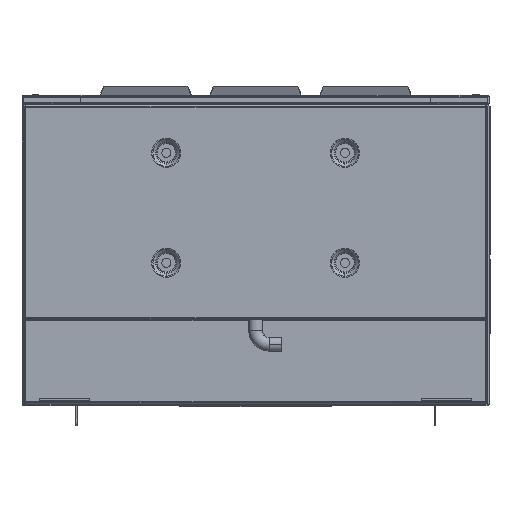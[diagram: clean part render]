
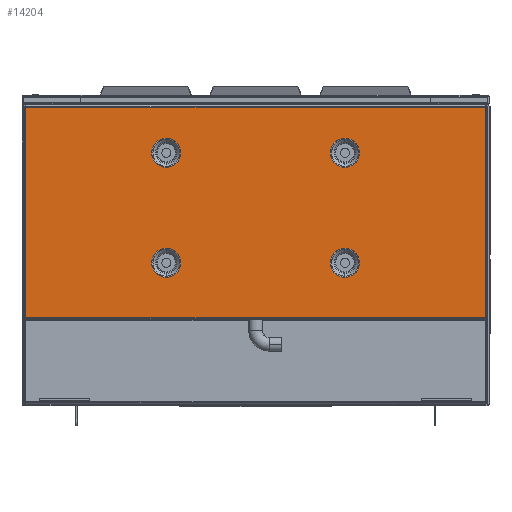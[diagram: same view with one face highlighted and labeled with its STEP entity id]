
A CAD part, front view. The second image highlights one B-rep face of the part: STEP entity #14204.
In plain terms, the highlighted planar face has unit normal (0, -1, 0).
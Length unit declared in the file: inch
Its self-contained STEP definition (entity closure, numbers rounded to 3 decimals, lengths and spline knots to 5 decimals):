
#1250 = VERTEX_POINT ( 'NONE', #25724 ) ;
#1706 = ORIENTED_EDGE ( 'NONE', *, *, #51820, .T. ) ;
#2119 = LINE ( 'NONE', #13474, #36731 ) ;
#2383 = AXIS2_PLACEMENT_3D ( 'NONE', #19619, #67813, #26577 ) ;
#2592 = EDGE_CURVE ( 'NONE', #13549, #28653, #2119, .T. ) ;
#4679 = VERTEX_POINT ( 'NONE', #51894 ) ;
#4862 = EDGE_CURVE ( 'NONE', #73409, #17080, #19112, .T. ) ;
#7658 = DIRECTION ( 'NONE',  ( 0., -1., 0. ) ) ;
#7935 = EDGE_CURVE ( 'NONE', #37511, #17565, #10393, .T. ) ;
#8520 = CARTESIAN_POINT ( 'NONE',  ( -3.25, -0.055, -1.30615 ) ) ;
#9176 = VERTEX_POINT ( 'NONE', #57182 ) ;
#9247 = CARTESIAN_POINT ( 'NONE',  ( -3.25, -0.055, 1.63615 ) ) ;
#10393 = CIRCLE ( 'NONE', #60249, 0.52885 ) ;
#10820 = ORIENTED_EDGE ( 'NONE', *, *, #7935, .T. ) ;
#12880 = DIRECTION ( 'NONE',  ( 0., 0., -1. ) ) ;
#13206 = CARTESIAN_POINT ( 'NONE',  ( -3.25, -0.055, -1.835 ) ) ;
#13474 = CARTESIAN_POINT ( 'NONE',  ( -8.364, -0.055, 3.85929 ) ) ;
#13549 = VERTEX_POINT ( 'NONE', #33768 ) ;
#14204 = ADVANCED_FACE ( 'NONE', ( #82695, #64449, #46105, #27792, #66573 ), #49042, .T. ) ;
#14430 = LINE ( 'NONE', #47268, #30653 ) ;
#14649 = CARTESIAN_POINT ( 'NONE',  ( -8.364, -0.055, -3.829 ) ) ;
#14786 = DIRECTION ( 'NONE',  ( 0., 1., 0. ) ) ;
#17080 = VERTEX_POINT ( 'NONE', #67035 ) ;
#17565 = VERTEX_POINT ( 'NONE', #52551 ) ;
#18156 = CIRCLE ( 'NONE', #24104, 0.52885 ) ;
#19112 = CIRCLE ( 'NONE', #21983, 0.52885 ) ;
#19602 = CARTESIAN_POINT ( 'NONE',  ( -3.25, -0.055, 2.165 ) ) ;
#19619 = CARTESIAN_POINT ( 'NONE',  ( 3.25, -0.055, -1.835 ) ) ;
#19842 = AXIS2_PLACEMENT_3D ( 'NONE', #56138, #14786, #63065 ) ;
#20144 = DIRECTION ( 'NONE',  ( 0., 0., 1. ) ) ;
#21659 = CARTESIAN_POINT ( 'NONE',  ( 3.25, -0.055, 2.165 ) ) ;
#21983 = AXIS2_PLACEMENT_3D ( 'NONE', #31202, #31090, #30896 ) ;
#22384 = CARTESIAN_POINT ( 'NONE',  ( -3.25, -0.055, -2.36385 ) ) ;
#24104 = AXIS2_PLACEMENT_3D ( 'NONE', #29403, #77557, #36348 ) ;
#24529 = EDGE_LOOP ( 'NONE', ( #33720, #27296, #87910, #36013 ) ) ;
#25724 = CARTESIAN_POINT ( 'NONE',  ( 3.25, -0.055, -2.36385 ) ) ;
#25953 = DIRECTION ( 'NONE',  ( 0., 1., 0. ) ) ;
#26406 = EDGE_LOOP ( 'NONE', ( #10820, #48345 ) ) ;
#26550 = DIRECTION ( 'NONE',  ( 0., 0., 1. ) ) ;
#26577 = DIRECTION ( 'NONE',  ( 0., 0., 1. ) ) ;
#27296 = ORIENTED_EDGE ( 'NONE', *, *, #66570, .T. ) ;
#27792 = FACE_BOUND ( 'NONE', #48153, .T. ) ;
#28608 = DIRECTION ( 'NONE',  ( 0., 0., 1. ) ) ;
#28653 = VERTEX_POINT ( 'NONE', #14649 ) ;
#29403 = CARTESIAN_POINT ( 'NONE',  ( -3.25, -0.055, -1.835 ) ) ;
#29788 = ORIENTED_EDGE ( 'NONE', *, *, #52758, .T. ) ;
#30653 = VECTOR ( 'NONE', #54201, 39.37008 ) ;
#30896 = DIRECTION ( 'NONE',  ( 0., 0., 1. ) ) ;
#31090 = DIRECTION ( 'NONE',  ( 0., 1., 0. ) ) ;
#31202 = CARTESIAN_POINT ( 'NONE',  ( -3.25, -0.055, 2.165 ) ) ;
#31861 = CARTESIAN_POINT ( 'NONE',  ( 8.39429, -0.055, 3.829 ) ) ;
#32798 = VERTEX_POINT ( 'NONE', #43523 ) ;
#33720 = ORIENTED_EDGE ( 'NONE', *, *, #35504, .T. ) ;
#33768 = CARTESIAN_POINT ( 'NONE',  ( -8.364, -0.055, 3.829 ) ) ;
#33882 = AXIS2_PLACEMENT_3D ( 'NONE', #67183, #25953, #74117 ) ;
#35190 = CARTESIAN_POINT ( 'NONE',  ( 8.45, -0.055, -3.915 ) ) ;
#35504 = EDGE_CURVE ( 'NONE', #28653, #32798, #62532, .T. ) ;
#36013 = ORIENTED_EDGE ( 'NONE', *, *, #2592, .T. ) ;
#36345 = AXIS2_PLACEMENT_3D ( 'NONE', #19602, #67787, #26550 ) ;
#36348 = DIRECTION ( 'NONE',  ( 0., 0., 1. ) ) ;
#36731 = VECTOR ( 'NONE', #12880, 39.37008 ) ;
#37511 = VERTEX_POINT ( 'NONE', #51950 ) ;
#37739 = EDGE_CURVE ( 'NONE', #4679, #1250, #75011, .T. ) ;
#39484 = EDGE_CURVE ( 'NONE', #17565, #37511, #58859, .T. ) ;
#42042 = VECTOR ( 'NONE', #82317, 39.37008 ) ;
#42120 = EDGE_LOOP ( 'NONE', ( #29788, #67359 ) ) ;
#43523 = CARTESIAN_POINT ( 'NONE',  ( 8.364, -0.055, -3.829 ) ) ;
#46008 = VERTEX_POINT ( 'NONE', #22384 ) ;
#46074 = AXIS2_PLACEMENT_3D ( 'NONE', #13206, #61480, #20144 ) ;
#46105 = FACE_BOUND ( 'NONE', #42120, .T. ) ;
#46231 = EDGE_LOOP ( 'NONE', ( #77721, #1706 ) ) ;
#47268 = CARTESIAN_POINT ( 'NONE',  ( 8.364, -0.055, -3.85929 ) ) ;
#47774 = CARTESIAN_POINT ( 'NONE',  ( -8.39429, -0.055, -3.829 ) ) ;
#48153 = EDGE_LOOP ( 'NONE', ( #78997, #81260 ) ) ;
#48345 = ORIENTED_EDGE ( 'NONE', *, *, #39484, .T. ) ;
#49042 = PLANE ( 'NONE',  #58296 ) ;
#51820 = EDGE_CURVE ( 'NONE', #1250, #4679, #82698, .T. ) ;
#51894 = CARTESIAN_POINT ( 'NONE',  ( 3.25, -0.055, -1.30615 ) ) ;
#51950 = CARTESIAN_POINT ( 'NONE',  ( 3.25, -0.055, 2.69385 ) ) ;
#52551 = CARTESIAN_POINT ( 'NONE',  ( 3.25, -0.055, 1.63615 ) ) ;
#52758 = EDGE_CURVE ( 'NONE', #81020, #46008, #18156, .T. ) ;
#54201 = DIRECTION ( 'NONE',  ( 0., 0., 1. ) ) ;
#54252 = EDGE_CURVE ( 'NONE', #9176, #13549, #65513, .T. ) ;
#55987 = DIRECTION ( 'NONE',  ( 0., 0., -1. ) ) ;
#56138 = CARTESIAN_POINT ( 'NONE',  ( 3.25, -0.055, 2.165 ) ) ;
#57182 = CARTESIAN_POINT ( 'NONE',  ( 8.364, -0.055, 3.829 ) ) ;
#58296 = AXIS2_PLACEMENT_3D ( 'NONE', #35190, #7658, #55987 ) ;
#58859 = CIRCLE ( 'NONE', #19842, 0.52885 ) ;
#59592 = DIRECTION ( 'NONE',  ( -1., 0., 0. ) ) ;
#60249 = AXIS2_PLACEMENT_3D ( 'NONE', #21659, #69869, #28608 ) ;
#61480 = DIRECTION ( 'NONE',  ( 0., 1., 0. ) ) ;
#62532 = LINE ( 'NONE', #47774, #42042 ) ;
#63065 = DIRECTION ( 'NONE',  ( 0., 0., 1. ) ) ;
#63359 = VECTOR ( 'NONE', #59592, 39.37008 ) ;
#63701 = CIRCLE ( 'NONE', #36345, 0.52885 ) ;
#64449 = FACE_BOUND ( 'NONE', #26406, .T. ) ;
#65513 = LINE ( 'NONE', #31861, #63359 ) ;
#66570 = EDGE_CURVE ( 'NONE', #32798, #9176, #14430, .T. ) ;
#66573 = FACE_OUTER_BOUND ( 'NONE', #24529, .T. ) ;
#67035 = CARTESIAN_POINT ( 'NONE',  ( -3.25, -0.055, 2.69385 ) ) ;
#67183 = CARTESIAN_POINT ( 'NONE',  ( 3.25, -0.055, -1.835 ) ) ;
#67359 = ORIENTED_EDGE ( 'NONE', *, *, #87054, .T. ) ;
#67787 = DIRECTION ( 'NONE',  ( 0., 1., 0. ) ) ;
#67813 = DIRECTION ( 'NONE',  ( 0., 1., 0. ) ) ;
#69869 = DIRECTION ( 'NONE',  ( 0., 1., 0. ) ) ;
#73409 = VERTEX_POINT ( 'NONE', #9247 ) ;
#74117 = DIRECTION ( 'NONE',  ( 0., 0., 1. ) ) ;
#75011 = CIRCLE ( 'NONE', #2383, 0.52885 ) ;
#77557 = DIRECTION ( 'NONE',  ( 0., 1., 0. ) ) ;
#77721 = ORIENTED_EDGE ( 'NONE', *, *, #37739, .T. ) ;
#78937 = CIRCLE ( 'NONE', #46074, 0.52885 ) ;
#78997 = ORIENTED_EDGE ( 'NONE', *, *, #88150, .T. ) ;
#81020 = VERTEX_POINT ( 'NONE', #8520 ) ;
#81260 = ORIENTED_EDGE ( 'NONE', *, *, #4862, .T. ) ;
#82317 = DIRECTION ( 'NONE',  ( 1., 0., 0. ) ) ;
#82695 = FACE_BOUND ( 'NONE', #46231, .T. ) ;
#82698 = CIRCLE ( 'NONE', #33882, 0.52885 ) ;
#87054 = EDGE_CURVE ( 'NONE', #46008, #81020, #78937, .T. ) ;
#87910 = ORIENTED_EDGE ( 'NONE', *, *, #54252, .T. ) ;
#88150 = EDGE_CURVE ( 'NONE', #17080, #73409, #63701, .T. ) ;
